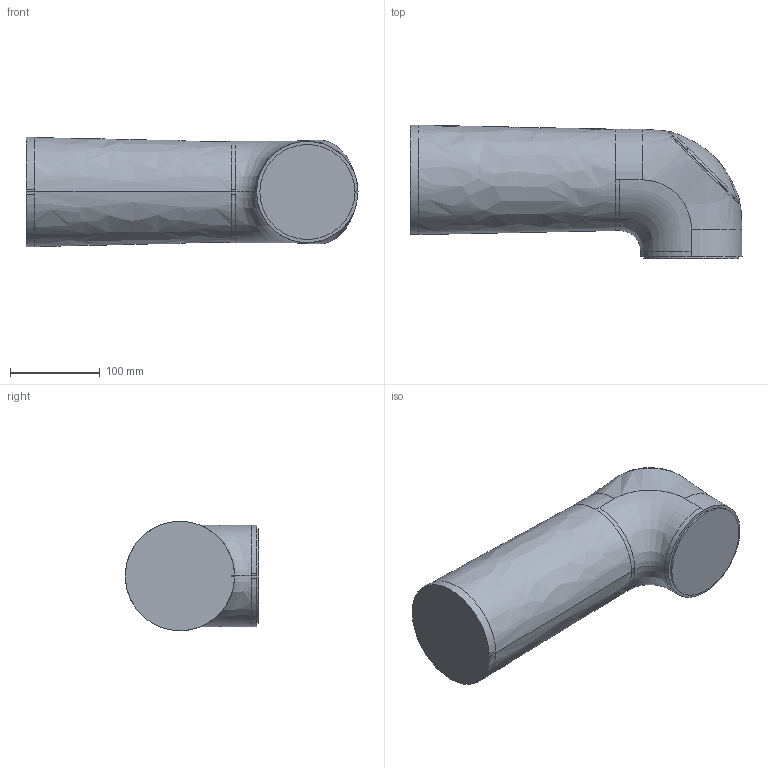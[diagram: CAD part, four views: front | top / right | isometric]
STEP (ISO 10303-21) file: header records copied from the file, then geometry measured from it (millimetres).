
FILE_DESCRIPTION (( 'STEP AP214' ), '1' );
FILE_NAME ('CRB1920_30kg-1350_OmniCore_rev00_Link4.step', '2026-03-06T03:43:19', ( '' ), ( '' ), 'SwSTEP 2.0', 'SolidWorks 2022', '' );
FILE_SCHEMA (( 'AUTOMOTIVE_DESIGN' ));
Length unit declared in the file: millimetre
Products named in the file (1): CRB1920_30kg-1350_OmniCore_rev00_Link4
Bounding box: 370.58 x 149.08 x 122 mm (x, y, z)
Volume: 4101920.1 mm3; surface area: 164657.2 mm2
Topology: 1 solids, 1 shells, 427 faces, 1129 edges, 731 vertices
Faces by surface type: bspline 369, plane 32, cylinder 22, torus 2, cone 2
Entity records: 55100 total; most frequent: CARTESIAN_POINT 47187, ORIENTED_EDGE 2254, EDGE_CURVE 1127, B_SPLINE_CURVE_WITH_KNOTS 1003, VERTEX_POINT 731, EDGE_LOOP 456, ADVANCED_FACE 427, FACE_OUTER_BOUND 427
